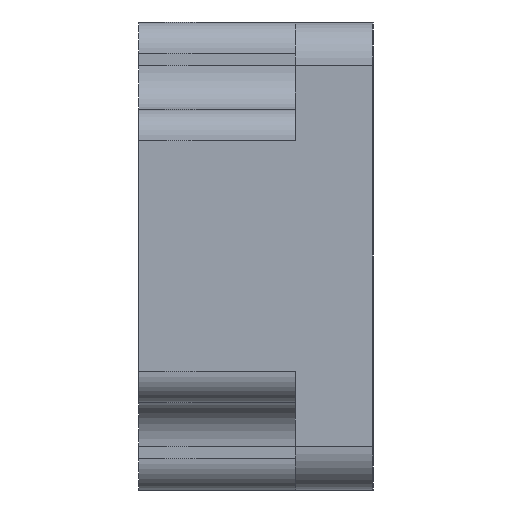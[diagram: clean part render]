
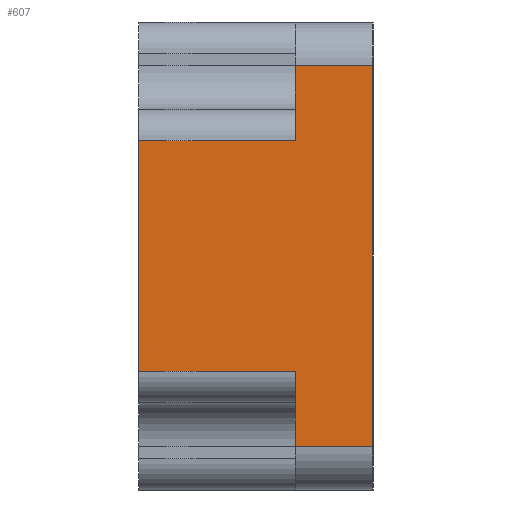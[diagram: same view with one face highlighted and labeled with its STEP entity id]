
A CAD part, left-side view. The second image highlights one B-rep face of the part: STEP entity #607.
In plain terms, the highlighted planar face has unit normal (-1, 0, 0).
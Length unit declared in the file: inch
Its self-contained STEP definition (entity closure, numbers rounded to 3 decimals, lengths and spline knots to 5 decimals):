
#388 = ORIENTED_EDGE ( 'NONE', *, *, #389, .T. ) ;
#389 = EDGE_CURVE ( 'NONE', #441, #390, #1867, .T. ) ;
#390 = VERTEX_POINT ( 'NONE', #1863 ) ;
#391 = ORIENTED_EDGE ( 'NONE', *, *, #392, .F. ) ;
#392 = EDGE_CURVE ( 'NONE', #629, #390, #1862, .T. ) ;
#397 = EDGE_CURVE ( 'NONE', #629, #644, #1851, .T. ) ;
#441 = VERTEX_POINT ( 'NONE', #1898 ) ;
#577 = EDGE_CURVE ( 'NONE', #578, #441, #3020, .T. ) ;
#578 = VERTEX_POINT ( 'NONE', #3003 ) ;
#599 = EDGE_CURVE ( 'NONE', #600, #647, #2227, .T. ) ;
#600 = VERTEX_POINT ( 'NONE', #2223 ) ;
#601 = ORIENTED_EDGE ( 'NONE', *, *, #602, .T. ) ;
#602 = EDGE_CURVE ( 'NONE', #600, #578, #2222, .T. ) ;
#603 = ORIENTED_EDGE ( 'NONE', *, *, #577, .T. ) ;
#607 = ADVANCED_FACE ( 'NONE', ( #2204 ), #2203, .F. ) ;
#608 = EDGE_LOOP ( 'NONE', ( #642, #645, #648, #601, #603, #388, #391, #630 ) ) ;
#609 = VERTEX_POINT ( 'NONE', #2241 ) ;
#629 = VERTEX_POINT ( 'NONE', #2278 ) ;
#630 = ORIENTED_EDGE ( 'NONE', *, *, #397, .T. ) ;
#642 = ORIENTED_EDGE ( 'NONE', *, *, #643, .F. ) ;
#643 = EDGE_CURVE ( 'NONE', #609, #644, #2313, .T. ) ;
#644 = VERTEX_POINT ( 'NONE', #2317 ) ;
#645 = ORIENTED_EDGE ( 'NONE', *, *, #646, .T. ) ;
#646 = EDGE_CURVE ( 'NONE', #609, #647, #2289, .T. ) ;
#647 = VERTEX_POINT ( 'NONE', #2290 ) ;
#648 = ORIENTED_EDGE ( 'NONE', *, *, #599, .F. ) ;
#1848 = DIRECTION ( 'NONE',  ( 0., 1., 0. ) ) ;
#1849 = VECTOR ( 'NONE', #1848, 39.37008 ) ;
#1850 = CARTESIAN_POINT ( 'NONE',  ( 0., 0.75, 0.37 ) ) ;
#1851 = LINE ( 'NONE', #1850, #1849 ) ;
#1859 = DIRECTION ( 'NONE',  ( 0., 0., 1. ) ) ;
#1860 = VECTOR ( 'NONE', #1859, 39.37008 ) ;
#1861 = CARTESIAN_POINT ( 'NONE',  ( 0., 0.25, 0.75 ) ) ;
#1862 = LINE ( 'NONE', #1861, #1860 ) ;
#1863 = CARTESIAN_POINT ( 'NONE',  ( 0., 0.25, 0.61 ) ) ;
#1864 = DIRECTION ( 'NONE',  ( 0., 1., 0. ) ) ;
#1865 = VECTOR ( 'NONE', #1864, 39.37008 ) ;
#1866 = CARTESIAN_POINT ( 'NONE',  ( 0., 0.75, 0.61 ) ) ;
#1867 = LINE ( 'NONE', #1866, #1865 ) ;
#1898 = CARTESIAN_POINT ( 'NONE',  ( 0., 0., 0.61 ) ) ;
#2197 = DIRECTION ( 'NONE',  ( 0., 0., -1. ) ) ;
#2198 = DIRECTION ( 'NONE',  ( 1., 0., 0. ) ) ;
#2199 = AXIS2_PLACEMENT_3D ( 'NONE', #2202, #2198, #2197 ) ;
#2202 = CARTESIAN_POINT ( 'NONE',  ( 0., 0.75, -0.75 ) ) ;
#2203 = PLANE ( 'NONE',  #2199 ) ;
#2204 = FACE_OUTER_BOUND ( 'NONE', #608, .T. ) ;
#2219 = DIRECTION ( 'NONE',  ( 0., -1., 0. ) ) ;
#2220 = VECTOR ( 'NONE', #2219, 39.37008 ) ;
#2221 = CARTESIAN_POINT ( 'NONE',  ( 0., 0.75, -0.61 ) ) ;
#2222 = LINE ( 'NONE', #2221, #2220 ) ;
#2223 = CARTESIAN_POINT ( 'NONE',  ( 0., 0.25, -0.61 ) ) ;
#2224 = DIRECTION ( 'NONE',  ( 0., 0., 1. ) ) ;
#2225 = VECTOR ( 'NONE', #2224, 39.37008 ) ;
#2226 = CARTESIAN_POINT ( 'NONE',  ( 0., 0.25, -0.75 ) ) ;
#2227 = LINE ( 'NONE', #2226, #2225 ) ;
#2241 = CARTESIAN_POINT ( 'NONE',  ( 0., 0.75, -0.37 ) ) ;
#2278 = CARTESIAN_POINT ( 'NONE',  ( 0., 0.25, 0.37 ) ) ;
#2286 = DIRECTION ( 'NONE',  ( 0., -1., 0. ) ) ;
#2287 = VECTOR ( 'NONE', #2286, 39.37008 ) ;
#2288 = CARTESIAN_POINT ( 'NONE',  ( 0., 0.75, -0.37 ) ) ;
#2289 = LINE ( 'NONE', #2288, #2287 ) ;
#2290 = CARTESIAN_POINT ( 'NONE',  ( 0., 0.25, -0.37 ) ) ;
#2313 = LINE ( 'NONE', #2316, #2315 ) ;
#2314 = DIRECTION ( 'NONE',  ( 0., 0., 1. ) ) ;
#2315 = VECTOR ( 'NONE', #2314, 39.37008 ) ;
#2316 = CARTESIAN_POINT ( 'NONE',  ( 0., 0.75, -0.75 ) ) ;
#2317 = CARTESIAN_POINT ( 'NONE',  ( 0., 0.75, 0.37 ) ) ;
#3003 = CARTESIAN_POINT ( 'NONE',  ( 0., 0., -0.61 ) ) ;
#3004 = DIRECTION ( 'NONE',  ( 0., 0., 1. ) ) ;
#3005 = VECTOR ( 'NONE', #3004, 39.37008 ) ;
#3006 = CARTESIAN_POINT ( 'NONE',  ( 0., 0., -0.75 ) ) ;
#3020 = LINE ( 'NONE', #3006, #3005 ) ;
